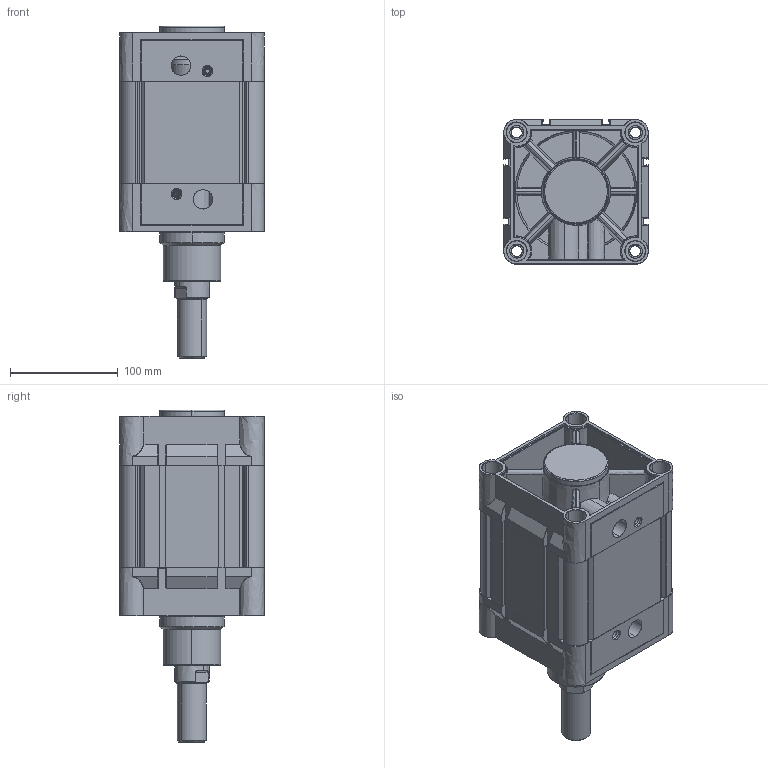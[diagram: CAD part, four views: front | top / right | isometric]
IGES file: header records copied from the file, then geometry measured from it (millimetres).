
Start section: SolidWorks IGES file using analytic representation for surfaces
Global section: file name: D:\ARICA 3D 禽Z軲LER\3D IGES\KDNC\KDNC125\KDNC125X25CYLINDER.IGS,1; native system: 5HSolidWorks 2013; preprocessor: SolidWorks 2013; author: user; date: 150304.113113; units: millimetre
Bounding box: 134 x 134.3 x 308 mm (x, y, z)
Surface area: 481560.8 mm2 (no closed solid volume)
Topology: 0 solids, 0 shells, 1075 faces, 16930 edges, 16924 vertices
Faces by surface type: revolution 580, bspline 495
